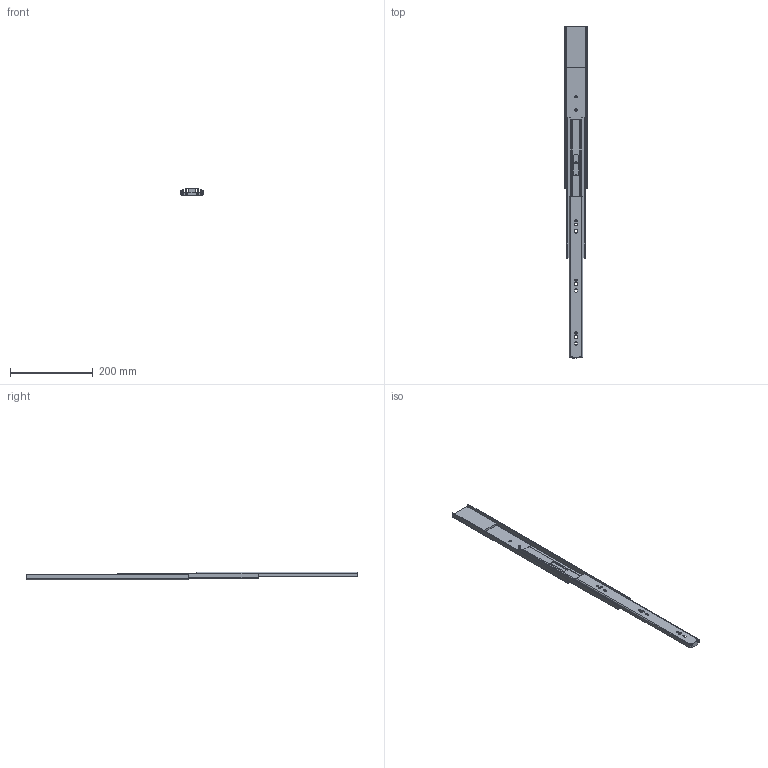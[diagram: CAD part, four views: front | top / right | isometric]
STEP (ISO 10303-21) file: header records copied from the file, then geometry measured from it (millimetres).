
FILE_DESCRIPTION((''),'2;1');
FILE_NAME('78A01_400_OPEN_ASM','2020-09-01T15:15:52',('T170334'),(''),'CREO PARAMETRIC BY PTC INC, 2018260','CREO PARAMETRIC BY PTC INC, 2018260','');
FILE_SCHEMA(('CONFIG_CONTROL_DESIGN'));
Length unit declared in the file: millimetre
Products named in the file (5): OUT_400; MID_400; IN_400; MECHANISM_O; 78A01_400_OPEN_ASM
Assembly tree (4 placements, depth 2):
  78A01_400_OPEN_ASM
    OUT_400
    MID_400
    IN_400
    MECHANISM_O
Bounding box: 53.32 x 803.4 x 18.84 mm (x, y, z)
Volume: 155819.8 mm3; surface area: 155490.7 mm2
Topology: 4 solids, 4 shells, 158 faces, 446 edges, 296 vertices
Faces by surface type: plane 80, cylinder 78
Entity records: 5363 total; most frequent: CARTESIAN_POINT 949, DIRECTION 920, ORIENTED_EDGE 892, EDGE_CURVE 446, AXIS2_PLACEMENT_3D 315, VERTEX_POINT 296, VECTOR 290, LINE 290
